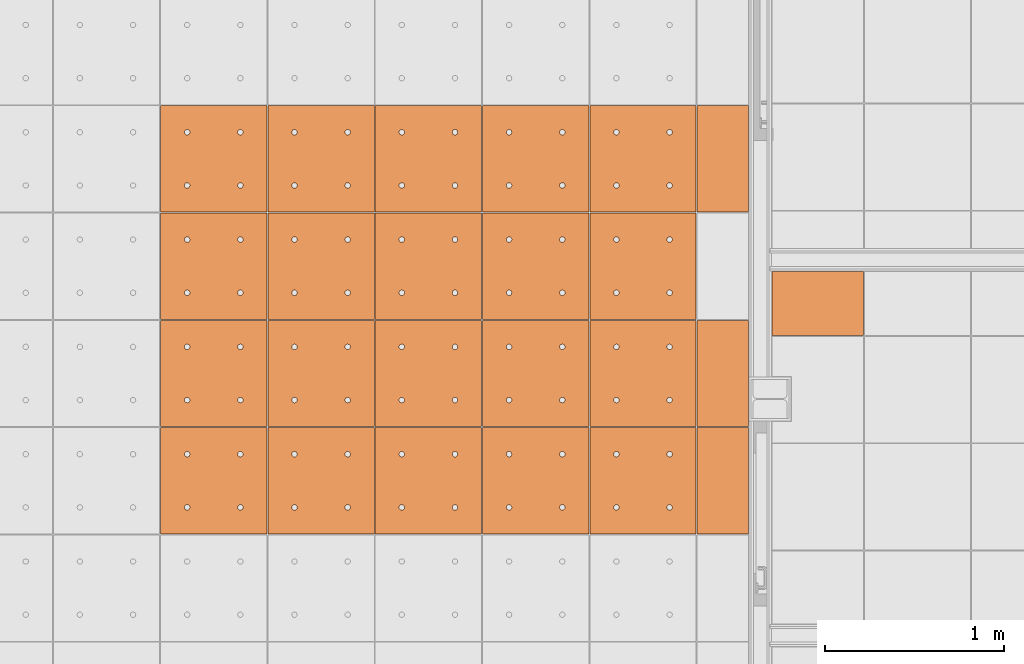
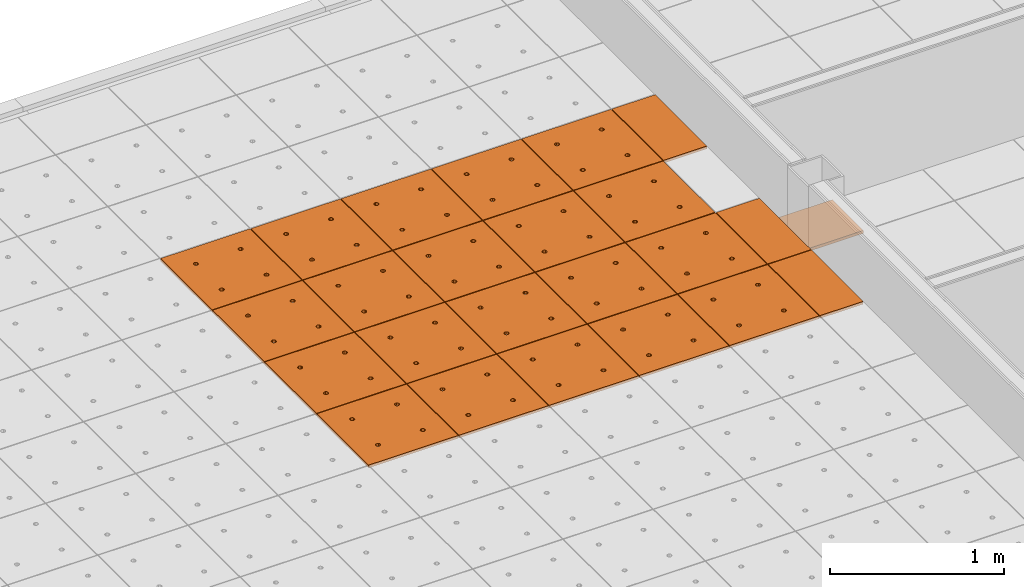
# One storey, part 297 of 338: 24 proxies, 2 elements without a shape of their own.
"""IFC2X3 building model written with IfcOpenShell, lengths in millimetres."""

from ifc_helpers import new_model, entity, si_unit, converted_unit, derived_unit, money_unit, direction, frame, origin_with_axes, place, context, subcontext, project, spatial, faceted_brep, source, transform, mapped, material, type_object, type_shapes, element, aggregate, save


model = new_model("IFC2X3")

# Units and contexts
model_context = context("Model", 3, precision=0.01, world=origin_with_axes(), true_north=direction((0.0, 1.0)))
plan_context = context("Plan", 3, precision=0.01, world=origin_with_axes(), true_north=direction((0.0, 1.0)))
body_context = subcontext(model_context, "Body", "Model", "MODEL_VIEW")
ifc_project = project(units=[si_unit("LENGTHUNIT", "METRE", prefix="MILLI"), si_unit("AREAUNIT", "SQUARE_METRE"), si_unit("VOLUMEUNIT", "CUBIC_METRE"), converted_unit("PLANEANGLEUNIT", "DEGREE", entity("IfcPlaneAngleMeasure", 0.0174532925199), si_unit("PLANEANGLEUNIT", "RADIAN"), dimensions=[0, 0, 0, 0, 0, 0, 0]), money_unit("EUR"), converted_unit("TIMEUNIT", "Year", entity("IfcTimeMeasure", 31556926.0), si_unit("TIMEUNIT", "SECOND"), dimensions=[0, 0, 1, 0, 0, 0, 0]), si_unit("MASSUNIT", "GRAM", prefix="KILO"), si_unit("THERMODYNAMICTEMPERATUREUNIT", "DEGREE_CELSIUS"), si_unit("LUMINOUSINTENSITYUNIT", "LUMEN"), si_unit("ENERGYUNIT", "JOULE", prefix="MEGA"), derived_unit("THERMALCONDUCTANCEUNIT", [(si_unit("POWERUNIT", "WATT"), 1), (si_unit("LENGTHUNIT", "METRE"), -1), (si_unit("THERMODYNAMICTEMPERATUREUNIT", "KELVIN"), -1)]), derived_unit("SPECIFICHEATCAPACITYUNIT", [(si_unit("ENERGYUNIT", "JOULE"), 1), (si_unit("MASSUNIT", "GRAM", prefix="KILO"), -1), (si_unit("THERMODYNAMICTEMPERATUREUNIT", "KELVIN"), -1)]), derived_unit("MASSDENSITYUNIT", [(si_unit("MASSUNIT", "GRAM", prefix="KILO"), 1), (si_unit("VOLUMEUNIT", "CUBIC_METRE"), -1)])], contexts=[model_context, plan_context])

# Site, building, storey
site_placement = place(None, origin_with_axes())
site = spatial("IfcSite", under=ifc_project, at=site_placement, Name="Fortuinstraat Woensdrecht", CompositionType="ELEMENT")
building_placement = place(site_placement, origin_with_axes())
building = spatial("IfcBuilding", under=site, at=building_placement, Name="IKC Fortuna", CompositionType="ELEMENT")
storey_placement = place(building_placement, origin_with_axes())
storey = spatial("IfcBuildingStorey", under=building, at=storey_placement, Name="00 begane grond", CompositionType="ELEMENT", Elevation=0.0)

# Covering, proxies
covering_type = type_object("IfcCoveringType", Name="Curtain Wall Type", PredefinedType="CEILING")
covering_1_placement = place(storey_placement, frame((15059.4416165, 34009.703821, 3210.0), z_axis=(0.0, 0.0, 1.0), x_axis=(1.0, 0.0, 0.0)))
covering_1 = element("IfcCovering", 1, at=covering_1_placement, inside=storey, type_object=covering_type, Name="45_Plafondafwerking_P01", PredefinedType="CEILING")
ifc_material = material(Name="Gipsplaat")
building_element_proxy_type_1 = type_object("IfcBuildingElementProxyType", Name="Distinct Panel 600 x 600 x 20", PredefinedType="NOTDEFINED")
shared_shape_1 = source(origin_with_axes(), body_context, "Body", "Brep", [
    faceted_brep([(2.49999999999, 2.49999999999, -10.0), (300.0, 2.49999999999, -10.0), (300.0, 2.49999999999, 10.0), (2.49999999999, 2.49999999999, 10.0), (2.49999999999, 300.0, -10.0), (2.49999999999, 597.5, -10.0), (300.0, 597.5, -10.0), (597.5, 597.5, -10.0), (597.5, 300.0, -10.0), (597.5, 2.49999999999, -10.0), (166.25, 450.06232995, -10.0), (165.79423259, 452.64711538, -10.0), (164.896546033, 455.11348892, -10.0), (163.58421608, 457.38651108, -10.0), (161.897117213, 459.39711721, -10.0), (159.886511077, 461.08421608, -10.0), (157.613488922, 462.39654603, -10.0), (155.147115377, 463.29423259, -10.0), (152.562329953, 463.75, -10.0), (149.937670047, 463.75, -10.0), (147.352884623, 463.29423259, -10.0), (144.886511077, 462.39654603, -10.0), (142.613488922, 461.08421608, -10.0), (140.602882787, 459.39711721, -10.0), (138.91578392, 457.38651108, -10.0), (137.603453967, 455.11348892, -10.0), (136.705767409, 452.64711538, -10.0), (136.25, 450.06232995, -10.0), (136.25, 448.75, -10.0), (136.25, 447.43767005, -10.0), (136.705767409, 444.85288462, -10.0), (137.603453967, 442.38651108, -10.0), (138.91578392, 440.11348892, -10.0), (140.602882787, 438.10288279, -10.0), (142.613488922, 436.41578392, -10.0), (144.886511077, 435.10345397, -10.0), (147.352884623, 434.20576741, -10.0), (149.937670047, 433.75, -10.0), (152.562329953, 433.75, -10.0), (155.147115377, 434.20576741, -10.0), (157.613488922, 435.10345397, -10.0), (159.886511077, 436.41578392, -10.0), (161.897117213, 438.10288279, -10.0), (163.58421608, 440.11348892, -10.0), (164.896546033, 442.38651108, -10.0), (165.79423259, 444.85288462, -10.0), (166.25, 447.43767005, -10.0), (463.75, 450.06232995, -10.0), (463.29423259, 452.64711538, -10.0), (462.396546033, 455.11348892, -10.0), (461.08421608, 457.38651108, -10.0), (459.397117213, 459.39711721, -10.0), (457.386511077, 461.08421608, -10.0), (455.113488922, 462.39654603, -10.0), (452.647115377, 463.29423259, -10.0), (450.062329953, 463.75, -10.0), (447.437670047, 463.75, -10.0), (444.852884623, 463.29423259, -10.0), (442.386511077, 462.39654603, -10.0), (440.113488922, 461.08421608, -10.0), (438.102882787, 459.39711721, -10.0), (436.41578392, 457.38651108, -10.0), (435.103453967, 455.11348892, -10.0), (434.205767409, 452.64711538, -10.0), (433.75, 450.06232995, -10.0), (433.75, 448.75, -10.0), (433.75, 447.43767005, -10.0), (434.205767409, 444.85288462, -10.0), (435.103453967, 442.38651108, -10.0), (436.41578392, 440.11348892, -10.0), (438.102882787, 438.10288279, -10.0), (440.113488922, 436.41578392, -10.0), (442.386511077, 435.10345397, -10.0), (444.852884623, 434.20576741, -10.0), (447.437670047, 433.75, -10.0), (450.062329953, 433.75, -10.0), (452.647115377, 434.20576741, -10.0), (455.113488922, 435.10345397, -10.0), (457.386511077, 436.41578392, -10.0), (459.397117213, 438.10288279, -10.0), (461.08421608, 440.11348892, -10.0), (462.396546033, 442.38651108, -10.0), (463.29423259, 444.85288462, -10.0), (463.75, 447.43767005, -10.0), (463.75, 152.56232995, -10.0), (463.29423259, 155.14711538, -10.0), (462.396546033, 157.61348892, -10.0), (461.08421608, 159.88651108, -10.0), (459.397117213, 161.89711721, -10.0), (457.386511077, 163.58421608, -10.0), (455.113488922, 164.89654603, -10.0), (452.647115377, 165.79423259, -10.0), (450.062329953, 166.25, -10.0), (447.437670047, 166.25, -10.0), (444.852884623, 165.79423259, -10.0), (442.386511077, 164.89654603, -10.0), (440.113488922, 163.58421608, -10.0), (438.102882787, 161.89711721, -10.0), (436.41578392, 159.88651108, -10.0), (435.103453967, 157.61348892, -10.0), (434.205767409, 155.14711538, -10.0), (433.75, 152.56232995, -10.0), (433.75, 151.25, -10.0), (433.75, 149.93767005, -10.0), (434.205767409, 147.35288462, -10.0), (435.103453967, 144.88651108, -10.0), (436.41578392, 142.61348892, -10.0), (438.102882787, 140.60288279, -10.0), (440.113488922, 138.91578392, -10.0), (442.386511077, 137.60345397, -10.0), (444.852884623, 136.70576741, -10.0), (447.437670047, 136.25, -10.0), (450.062329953, 136.25, -10.0), (452.647115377, 136.70576741, -10.0), (455.113488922, 137.60345397, -10.0), (457.386511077, 138.91578392, -10.0), (459.397117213, 140.60288279, -10.0), (461.08421608, 142.61348892, -10.0), (462.396546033, 144.88651108, -10.0), (463.29423259, 147.35288462, -10.0), (463.75, 149.93767005, -10.0), (166.25, 152.56232995, -10.0), (165.79423259, 155.14711538, -10.0), (164.896546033, 157.61348892, -10.0), (163.58421608, 159.88651108, -10.0), (161.897117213, 161.89711721, -10.0), (159.886511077, 163.58421608, -10.0), (157.613488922, 164.89654603, -10.0), (155.147115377, 165.79423259, -10.0), (152.562329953, 166.25, -10.0), (149.937670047, 166.25, -10.0), (147.352884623, 165.79423259, -10.0), (144.886511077, 164.89654603, -10.0), (142.613488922, 163.58421608, -10.0), (140.602882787, 161.89711721, -10.0), (138.91578392, 159.88651108, -10.0), (137.603453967, 157.61348892, -10.0), (136.705767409, 155.14711538, -10.0), (136.25, 152.56232995, -10.0), (136.25, 151.25, -10.0), (136.25, 149.93767005, -10.0), (136.705767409, 147.35288462, -10.0), (137.603453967, 144.88651108, -10.0), (138.91578392, 142.61348892, -10.0), (140.602882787, 140.60288279, -10.0), (142.613488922, 138.91578392, -10.0), (144.886511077, 137.60345397, -10.0), (147.352884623, 136.70576741, -10.0), (149.937670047, 136.25, -10.0), (152.562329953, 136.25, -10.0), (155.147115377, 136.70576741, -10.0), (157.613488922, 137.60345397, -10.0), (159.886511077, 138.91578392, -10.0), (161.897117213, 140.60288279, -10.0), (163.58421608, 142.61348892, -10.0), (164.896546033, 144.88651108, -10.0), (165.79423259, 147.35288462, -10.0), (166.25, 149.93767005, -10.0), (597.5, 2.49999999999, 10.0), (597.5, 300.0, 10.0), (597.5, 597.5, 10.0), (300.0, 597.5, 10.0), (2.49999999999, 597.5, 10.0), (2.49999999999, 300.0, 10.0), (166.25, 450.06232995, 10.0), (166.25, 447.43767005, 10.0), (165.79423259, 444.85288462, 10.0), (164.896546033, 442.38651108, 10.0), (163.58421608, 440.11348892, 10.0), (161.897117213, 438.10288279, 10.0), (159.886511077, 436.41578392, 10.0), (157.613488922, 435.10345397, 10.0), (155.147115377, 434.20576741, 10.0), (152.562329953, 433.75, 10.0), (149.937670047, 433.75, 10.0), (147.352884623, 434.20576741, 10.0), (144.886511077, 435.10345397, 10.0), (142.613488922, 436.41578392, 10.0), (140.602882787, 438.10288279, 10.0), (138.91578392, 440.11348892, 10.0), (137.603453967, 442.38651108, 10.0), (136.705767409, 444.85288462, 10.0), (136.25, 447.43767005, 10.0), (136.25, 448.75, 10.0), (136.25, 450.06232995, 10.0), (136.705767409, 452.64711538, 10.0), (137.603453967, 455.11348892, 10.0), (138.91578392, 457.38651108, 10.0), (140.602882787, 459.39711721, 10.0), (142.613488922, 461.08421608, 10.0), (144.886511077, 462.39654603, 10.0), (147.352884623, 463.29423259, 10.0), (149.937670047, 463.75, 10.0), (152.562329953, 463.75, 10.0), (155.147115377, 463.29423259, 10.0), (157.613488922, 462.39654603, 10.0), (159.886511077, 461.08421608, 10.0), (161.897117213, 459.39711721, 10.0), (163.58421608, 457.38651108, 10.0), (164.896546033, 455.11348892, 10.0), (165.79423259, 452.64711538, 10.0), (463.75, 450.06232995, 10.0), (463.75, 447.43767005, 10.0), (463.29423259, 444.85288462, 10.0), (462.396546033, 442.38651108, 10.0), (461.08421608, 440.11348892, 10.0), (459.397117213, 438.10288279, 10.0), (457.386511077, 436.41578392, 10.0), (455.113488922, 435.10345397, 10.0), (452.647115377, 434.20576741, 10.0), (450.062329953, 433.75, 10.0), (447.437670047, 433.75, 10.0), (444.852884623, 434.20576741, 10.0), (442.386511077, 435.10345397, 10.0), (440.113488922, 436.41578392, 10.0), (438.102882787, 438.10288279, 10.0), (436.41578392, 440.11348892, 10.0), (435.103453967, 442.38651108, 10.0), (434.205767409, 444.85288462, 10.0), (433.75, 447.43767005, 10.0), (433.75, 448.75, 10.0), (433.75, 450.06232995, 10.0), (434.205767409, 452.64711538, 10.0), (435.103453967, 455.11348892, 10.0), (436.41578392, 457.38651108, 10.0), (438.102882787, 459.39711721, 10.0), (440.113488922, 461.08421608, 10.0), (442.386511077, 462.39654603, 10.0), (444.852884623, 463.29423259, 10.0), (447.437670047, 463.75, 10.0), (450.062329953, 463.75, 10.0), (452.647115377, 463.29423259, 10.0), (455.113488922, 462.39654603, 10.0), (457.386511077, 461.08421608, 10.0), (459.397117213, 459.39711721, 10.0), (461.08421608, 457.38651108, 10.0), (462.396546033, 455.11348892, 10.0), (463.29423259, 452.64711538, 10.0), (463.75, 152.56232995, 10.0), (463.75, 149.93767005, 10.0), (463.29423259, 147.35288462, 10.0), (462.396546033, 144.88651108, 10.0), (461.08421608, 142.61348892, 10.0), (459.397117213, 140.60288279, 10.0), (457.386511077, 138.91578392, 10.0), (455.113488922, 137.60345397, 10.0), (452.647115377, 136.70576741, 10.0), (450.062329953, 136.25, 10.0), (447.437670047, 136.25, 10.0), (444.852884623, 136.70576741, 10.0), (442.386511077, 137.60345397, 10.0), (440.113488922, 138.91578392, 10.0), (438.102882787, 140.60288279, 10.0), (436.41578392, 142.61348892, 10.0), (435.103453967, 144.88651108, 10.0), (434.205767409, 147.35288462, 10.0), (433.75, 149.93767005, 10.0), (433.75, 151.25, 10.0), (433.75, 152.56232995, 10.0), (434.205767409, 155.14711538, 10.0), (435.103453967, 157.61348892, 10.0), (436.41578392, 159.88651108, 10.0), (438.102882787, 161.89711721, 10.0), (440.113488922, 163.58421608, 10.0), (442.386511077, 164.89654603, 10.0), (444.852884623, 165.79423259, 10.0), (447.437670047, 166.25, 10.0), (450.062329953, 166.25, 10.0), (452.647115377, 165.79423259, 10.0), (455.113488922, 164.89654603, 10.0), (457.386511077, 163.58421608, 10.0), (459.397117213, 161.89711721, 10.0), (461.08421608, 159.88651108, 10.0), (462.396546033, 157.61348892, 10.0), (463.29423259, 155.14711538, 10.0), (166.25, 152.56232995, 10.0), (166.25, 149.93767005, 10.0), (165.79423259, 147.35288462, 10.0), (164.896546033, 144.88651108, 10.0), (163.58421608, 142.61348892, 10.0), (161.897117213, 140.60288279, 10.0), (159.886511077, 138.91578392, 10.0), (157.613488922, 137.60345397, 10.0), (155.147115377, 136.70576741, 10.0), (152.562329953, 136.25, 10.0), (149.937670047, 136.25, 10.0), (147.352884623, 136.70576741, 10.0), (144.886511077, 137.60345397, 10.0), (142.613488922, 138.91578392, 10.0), (140.602882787, 140.60288279, 10.0), (138.91578392, 142.61348892, 10.0), (137.603453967, 144.88651108, 10.0), (136.705767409, 147.35288462, 10.0), (136.25, 149.93767005, 10.0), (136.25, 151.25, 10.0), (136.25, 152.56232995, 10.0), (136.705767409, 155.14711538, 10.0), (137.603453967, 157.61348892, 10.0), (138.91578392, 159.88651108, 10.0), (140.602882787, 161.89711721, 10.0), (142.613488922, 163.58421608, 10.0), (144.886511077, 164.89654603, 10.0), (147.352884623, 165.79423259, 10.0), (149.937670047, 166.25, 10.0), (152.562329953, 166.25, 10.0), (155.147115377, 165.79423259, 10.0), (157.613488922, 164.89654603, 10.0), (159.886511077, 163.58421608, 10.0), (161.897117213, 161.89711721, 10.0), (163.58421608, 159.88651108, 10.0), (164.896546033, 157.61348892, 10.0), (165.79423259, 155.14711538, 10.0)], [[[0, 1, 2, 3]], [[0, 4, 5, 6, 7, 8, 9, 1], [10, 11, 12, 13, 14, 15, 16, 17, 18, 19, 20, 21, 22, 23, 24, 25, 26, 27, 28, 29, 30, 31, 32, 33, 34, 35, 36, 37, 38, 39, 40, 41, 42, 43, 44, 45, 46], [47, 48, 49, 50, 51, 52, 53, 54, 55, 56, 57, 58, 59, 60, 61, 62, 63, 64, 65, 66, 67, 68, 69, 70, 71, 72, 73, 74, 75, 76, 77, 78, 79, 80, 81, 82, 83], [84, 85, 86, 87, 88, 89, 90, 91, 92, 93, 94, 95, 96, 97, 98, 99, 100, 101, 102, 103, 104, 105, 106, 107, 108, 109, 110, 111, 112, 113, 114, 115, 116, 117, 118, 119, 120], [121, 122, 123, 124, 125, 126, 127, 128, 129, 130, 131, 132, 133, 134, 135, 136, 137, 138, 139, 140, 141, 142, 143, 144, 145, 146, 147, 148, 149, 150, 151, 152, 153, 154, 155, 156, 157]], [[1, 9, 158, 2]], [[3, 2, 158, 159, 160, 161, 162, 163], [164, 165, 166, 167, 168, 169, 170, 171, 172, 173, 174, 175, 176, 177, 178, 179, 180, 181, 182, 183, 184, 185, 186, 187, 188, 189, 190, 191, 192, 193, 194, 195, 196, 197, 198, 199, 200], [201, 202, 203, 204, 205, 206, 207, 208, 209, 210, 211, 212, 213, 214, 215, 216, 217, 218, 219, 220, 221, 222, 223, 224, 225, 226, 227, 228, 229, 230, 231, 232, 233, 234, 235, 236, 237], [238, 239, 240, 241, 242, 243, 244, 245, 246, 247, 248, 249, 250, 251, 252, 253, 254, 255, 256, 257, 258, 259, 260, 261, 262, 263, 264, 265, 266, 267, 268, 269, 270, 271, 272, 273, 274], [275, 276, 277, 278, 279, 280, 281, 282, 283, 284, 285, 286, 287, 288, 289, 290, 291, 292, 293, 294, 295, 296, 297, 298, 299, 300, 301, 302, 303, 304, 305, 306, 307, 308, 309, 310, 311]], [[4, 0, 3, 163]], [[5, 4, 163, 162]], [[6, 5, 162, 161]], [[7, 6, 161, 160]], [[8, 7, 160, 159]], [[9, 8, 159, 158]], [[11, 10, 164, 200]], [[12, 11, 200, 199]], [[13, 12, 199, 198]], [[14, 13, 198, 197]], [[15, 14, 197, 196]], [[16, 15, 196, 195]], [[17, 16, 195, 194]], [[18, 17, 194, 193]], [[19, 18, 193, 192]], [[20, 19, 192, 191]], [[21, 20, 191, 190]], [[22, 21, 190, 189]], [[23, 22, 189, 188]], [[24, 23, 188, 187]], [[25, 24, 187, 186]], [[26, 25, 186, 185]], [[27, 26, 185, 184]], [[28, 27, 184, 183]], [[29, 28, 183, 182]], [[30, 29, 182, 181]], [[31, 30, 181, 180]], [[32, 31, 180, 179]], [[33, 32, 179, 178]], [[34, 33, 178, 177]], [[35, 34, 177, 176]], [[36, 35, 176, 175]], [[37, 36, 175, 174]], [[38, 37, 174, 173]], [[39, 38, 173, 172]], [[40, 39, 172, 171]], [[41, 40, 171, 170]], [[42, 41, 170, 169]], [[43, 42, 169, 168]], [[44, 43, 168, 167]], [[45, 44, 167, 166]], [[46, 45, 166, 165]], [[10, 46, 165, 164]], [[48, 47, 201, 237]], [[49, 48, 237, 236]], [[50, 49, 236, 235]], [[51, 50, 235, 234]], [[52, 51, 234, 233]], [[53, 52, 233, 232]], [[54, 53, 232, 231]], [[55, 54, 231, 230]], [[56, 55, 230, 229]], [[57, 56, 229, 228]], [[58, 57, 228, 227]], [[59, 58, 227, 226]], [[60, 59, 226, 225]], [[61, 60, 225, 224]], [[62, 61, 224, 223]], [[63, 62, 223, 222]], [[64, 63, 222, 221]], [[65, 64, 221, 220]], [[66, 65, 220, 219]], [[67, 66, 219, 218]], [[68, 67, 218, 217]], [[69, 68, 217, 216]], [[70, 69, 216, 215]], [[71, 70, 215, 214]], [[72, 71, 214, 213]], [[73, 72, 213, 212]], [[74, 73, 212, 211]], [[75, 74, 211, 210]], [[76, 75, 210, 209]], [[77, 76, 209, 208]], [[78, 77, 208, 207]], [[79, 78, 207, 206]], [[80, 79, 206, 205]], [[81, 80, 205, 204]], [[82, 81, 204, 203]], [[83, 82, 203, 202]], [[47, 83, 202, 201]], [[85, 84, 238, 274]], [[86, 85, 274, 273]], [[87, 86, 273, 272]], [[88, 87, 272, 271]], [[89, 88, 271, 270]], [[90, 89, 270, 269]], [[91, 90, 269, 268]], [[92, 91, 268, 267]], [[93, 92, 267, 266]], [[94, 93, 266, 265]], [[95, 94, 265, 264]], [[96, 95, 264, 263]], [[97, 96, 263, 262]], [[98, 97, 262, 261]], [[99, 98, 261, 260]], [[100, 99, 260, 259]], [[101, 100, 259, 258]], [[102, 101, 258, 257]], [[103, 102, 257, 256]], [[104, 103, 256, 255]], [[105, 104, 255, 254]], [[106, 105, 254, 253]], [[107, 106, 253, 252]], [[108, 107, 252, 251]], [[109, 108, 251, 250]], [[110, 109, 250, 249]], [[111, 110, 249, 248]], [[112, 111, 248, 247]], [[113, 112, 247, 246]], [[114, 113, 246, 245]], [[115, 114, 245, 244]], [[116, 115, 244, 243]], [[117, 116, 243, 242]], [[118, 117, 242, 241]], [[119, 118, 241, 240]], [[120, 119, 240, 239]], [[84, 120, 239, 238]], [[122, 121, 275, 311]], [[123, 122, 311, 310]], [[124, 123, 310, 309]], [[125, 124, 309, 308]], [[126, 125, 308, 307]], [[127, 126, 307, 306]], [[128, 127, 306, 305]], [[129, 128, 305, 304]], [[130, 129, 304, 303]], [[131, 130, 303, 302]], [[132, 131, 302, 301]], [[133, 132, 301, 300]], [[134, 133, 300, 299]], [[135, 134, 299, 298]], [[136, 135, 298, 297]], [[137, 136, 297, 296]], [[138, 137, 296, 295]], [[139, 138, 295, 294]], [[140, 139, 294, 293]], [[141, 140, 293, 292]], [[142, 141, 292, 291]], [[143, 142, 291, 290]], [[144, 143, 290, 289]], [[145, 144, 289, 288]], [[146, 145, 288, 287]], [[147, 146, 287, 286]], [[148, 147, 286, 285]], [[149, 148, 285, 284]], [[150, 149, 284, 283]], [[151, 150, 283, 282]], [[152, 151, 282, 281]], [[153, 152, 281, 280]], [[154, 153, 280, 279]], [[155, 154, 279, 278]], [[156, 155, 278, 277]], [[157, 156, 277, 276]], [[121, 157, 276, 275]]]),
])
type_shapes(building_element_proxy_type_1, [shared_shape_1])
proxy_1_placement = place(covering_1_placement, frame((4800.0, -600.0, 0.0), z_axis=(0.0, 0.0, 1.0), x_axis=(1.0, 0.0, 0.0)))
proxy_1 = element("IfcBuildingElementProxy", 2, at=proxy_1_placement, type_object=building_element_proxy_type_1, material=ifc_material, Name="__Panel-D", context=body_context, shape_type="MappedRepresentation", body=[
    mapped(shared_shape_1, transform((300.0, 300.0, 0.0), x_axis=(-1.0, 0.0, 0.0), y_axis=(0.0, -1.0, 0.0), z_axis=(0.0, 0.0, 1.0))),
])
proxy_2_placement = place(covering_1_placement, frame((4800.0, -1200.0, 0.0), z_axis=(0.0, 0.0, 1.0), x_axis=(1.0, 0.0, 0.0)))
proxy_2 = element("IfcBuildingElementProxy", 3, at=proxy_2_placement, type_object=building_element_proxy_type_1, material=ifc_material, Name="__Panel-D", context=body_context, shape_type="MappedRepresentation", body=[
    mapped(shared_shape_1, transform((300.0, 300.0, 0.0), x_axis=(-1.0, 0.0, 0.0), y_axis=(0.0, -1.0, 0.0), z_axis=(0.0, 0.0, 1.0))),
])
proxy_3_placement = place(covering_1_placement, frame((4800.0, -1800.0, 0.0), z_axis=(0.0, 0.0, 1.0), x_axis=(1.0, 0.0, 0.0)))
proxy_3 = element("IfcBuildingElementProxy", 4, at=proxy_3_placement, type_object=building_element_proxy_type_1, material=ifc_material, Name="__Panel-D", context=body_context, shape_type="MappedRepresentation", body=[
    mapped(shared_shape_1, transform((300.0, 300.0, 0.0), x_axis=(-1.0, 0.0, 0.0), y_axis=(0.0, -1.0, 0.0), z_axis=(0.0, 0.0, 1.0))),
])
proxy_4_placement = place(covering_1_placement, frame((4800.0, -2400.0, 0.0), z_axis=(0.0, 0.0, 1.0), x_axis=(1.0, 0.0, 0.0)))
proxy_4 = element("IfcBuildingElementProxy", 5, at=proxy_4_placement, type_object=building_element_proxy_type_1, material=ifc_material, Name="__Panel-D", context=body_context, shape_type="MappedRepresentation", body=[
    mapped(shared_shape_1, transform((300.0, 300.0, 0.0), x_axis=(-1.0, 0.0, 0.0), y_axis=(0.0, -1.0, 0.0), z_axis=(0.0, 0.0, 1.0))),
])
proxy_5_placement = place(covering_1_placement, frame((4200.0, -600.0, 0.0), z_axis=(0.0, 0.0, 1.0), x_axis=(1.0, 0.0, 0.0)))
proxy_5 = element("IfcBuildingElementProxy", 6, at=proxy_5_placement, type_object=building_element_proxy_type_1, material=ifc_material, Name="__Panel-D", context=body_context, shape_type="MappedRepresentation", body=[
    mapped(shared_shape_1, transform((300.0, 300.0, 0.0), x_axis=(-1.0, 0.0, 0.0), y_axis=(0.0, -1.0, 0.0), z_axis=(0.0, 0.0, 1.0))),
])
proxy_6_placement = place(covering_1_placement, frame((4200.0, -1200.0, 0.0), z_axis=(0.0, 0.0, 1.0), x_axis=(1.0, 0.0, 0.0)))
proxy_6 = element("IfcBuildingElementProxy", 7, at=proxy_6_placement, type_object=building_element_proxy_type_1, material=ifc_material, Name="__Panel-D", context=body_context, shape_type="MappedRepresentation", body=[
    mapped(shared_shape_1, transform((300.0, 300.0, 0.0), x_axis=(-1.0, 0.0, 0.0), y_axis=(0.0, -1.0, 0.0), z_axis=(0.0, 0.0, 1.0))),
])
proxy_7_placement = place(covering_1_placement, frame((4200.0, -1800.0, 0.0), z_axis=(0.0, 0.0, 1.0), x_axis=(1.0, 0.0, 0.0)))
proxy_7 = element("IfcBuildingElementProxy", 8, at=proxy_7_placement, type_object=building_element_proxy_type_1, material=ifc_material, Name="__Panel-D", context=body_context, shape_type="MappedRepresentation", body=[
    mapped(shared_shape_1, transform((300.0, 300.0, 0.0), x_axis=(-1.0, 0.0, 0.0), y_axis=(0.0, -1.0, 0.0), z_axis=(0.0, 0.0, 1.0))),
])
proxy_8_placement = place(covering_1_placement, frame((4200.0, -2400.0, 0.0), z_axis=(0.0, 0.0, 1.0), x_axis=(1.0, 0.0, 0.0)))
proxy_8 = element("IfcBuildingElementProxy", 9, at=proxy_8_placement, type_object=building_element_proxy_type_1, material=ifc_material, Name="__Panel-D", context=body_context, shape_type="MappedRepresentation", body=[
    mapped(shared_shape_1, transform((300.0, 300.0, 0.0), x_axis=(-1.0, 0.0, 0.0), y_axis=(0.0, -1.0, 0.0), z_axis=(0.0, 0.0, 1.0))),
])
proxy_9_placement = place(covering_1_placement, frame((3600.0, -600.0, 0.0), z_axis=(0.0, 0.0, 1.0), x_axis=(1.0, 0.0, 0.0)))
proxy_9 = element("IfcBuildingElementProxy", 10, at=proxy_9_placement, type_object=building_element_proxy_type_1, material=ifc_material, Name="__Panel-D", context=body_context, shape_type="MappedRepresentation", body=[
    mapped(shared_shape_1, transform((300.0, 300.0, 0.0), x_axis=(-1.0, 0.0, 0.0), y_axis=(0.0, -1.0, 0.0), z_axis=(0.0, 0.0, 1.0))),
])
proxy_10_placement = place(covering_1_placement, frame((3600.0, -1200.0, 0.0), z_axis=(0.0, 0.0, 1.0), x_axis=(1.0, 0.0, 0.0)))
proxy_10 = element("IfcBuildingElementProxy", 11, at=proxy_10_placement, type_object=building_element_proxy_type_1, material=ifc_material, Name="__Panel-D", context=body_context, shape_type="MappedRepresentation", body=[
    mapped(shared_shape_1, transform((300.0, 300.0, 0.0), x_axis=(-1.0, 0.0, 0.0), y_axis=(0.0, -1.0, 0.0), z_axis=(0.0, 0.0, 1.0))),
])
proxy_11_placement = place(covering_1_placement, frame((3600.0, -1800.0, 0.0), z_axis=(0.0, 0.0, 1.0), x_axis=(1.0, 0.0, 0.0)))
proxy_11 = element("IfcBuildingElementProxy", 12, at=proxy_11_placement, type_object=building_element_proxy_type_1, material=ifc_material, Name="__Panel-D", context=body_context, shape_type="MappedRepresentation", body=[
    mapped(shared_shape_1, transform((300.0, 300.0, 0.0), x_axis=(-1.0, 0.0, 0.0), y_axis=(0.0, -1.0, 0.0), z_axis=(0.0, 0.0, 1.0))),
])
proxy_12_placement = place(covering_1_placement, frame((3600.0, -2400.0, 0.0), z_axis=(0.0, 0.0, 1.0), x_axis=(1.0, 0.0, 0.0)))
proxy_12 = element("IfcBuildingElementProxy", 13, at=proxy_12_placement, type_object=building_element_proxy_type_1, material=ifc_material, Name="__Panel-D", context=body_context, shape_type="MappedRepresentation", body=[
    mapped(shared_shape_1, transform((300.0, 300.0, 0.0), x_axis=(-1.0, 0.0, 0.0), y_axis=(0.0, -1.0, 0.0), z_axis=(0.0, 0.0, 1.0))),
])
proxy_13_placement = place(covering_1_placement, frame((3000.0, -600.0, 0.0), z_axis=(0.0, 0.0, 1.0), x_axis=(1.0, 0.0, 0.0)))
proxy_13 = element("IfcBuildingElementProxy", 14, at=proxy_13_placement, type_object=building_element_proxy_type_1, material=ifc_material, Name="__Panel-D", context=body_context, shape_type="MappedRepresentation", body=[
    mapped(shared_shape_1, transform((300.0, 300.0, 0.0), x_axis=(-1.0, 0.0, 0.0), y_axis=(0.0, -1.0, 0.0), z_axis=(0.0, 0.0, 1.0))),
])
proxy_14_placement = place(covering_1_placement, frame((3000.0, -1200.0, 0.0), z_axis=(0.0, 0.0, 1.0), x_axis=(1.0, 0.0, 0.0)))
proxy_14 = element("IfcBuildingElementProxy", 15, at=proxy_14_placement, type_object=building_element_proxy_type_1, material=ifc_material, Name="__Panel-D", context=body_context, shape_type="MappedRepresentation", body=[
    mapped(shared_shape_1, transform((300.0, 300.0, 0.0), x_axis=(-1.0, 0.0, 0.0), y_axis=(0.0, -1.0, 0.0), z_axis=(0.0, 0.0, 1.0))),
])
proxy_15_placement = place(covering_1_placement, frame((3000.0, -1800.0, 0.0), z_axis=(0.0, 0.0, 1.0), x_axis=(1.0, 0.0, 0.0)))
proxy_15 = element("IfcBuildingElementProxy", 16, at=proxy_15_placement, type_object=building_element_proxy_type_1, material=ifc_material, Name="__Panel-D", context=body_context, shape_type="MappedRepresentation", body=[
    mapped(shared_shape_1, transform((300.0, 300.0, 0.0), x_axis=(-1.0, 0.0, 0.0), y_axis=(0.0, -1.0, 0.0), z_axis=(0.0, 0.0, 1.0))),
])
proxy_16_placement = place(covering_1_placement, frame((3000.0, -2400.0, 0.0), z_axis=(0.0, 0.0, 1.0), x_axis=(1.0, 0.0, 0.0)))
proxy_16 = element("IfcBuildingElementProxy", 17, at=proxy_16_placement, type_object=building_element_proxy_type_1, material=ifc_material, Name="__Panel-D", context=body_context, shape_type="MappedRepresentation", body=[
    mapped(shared_shape_1, transform((300.0, 300.0, 0.0), x_axis=(-1.0, 0.0, 0.0), y_axis=(0.0, -1.0, 0.0), z_axis=(0.0, 0.0, 1.0))),
])
proxy_17_placement = place(covering_1_placement, frame((2400.0, -600.0, 0.0), z_axis=(0.0, 0.0, 1.0), x_axis=(1.0, 0.0, 0.0)))
proxy_17 = element("IfcBuildingElementProxy", 18, at=proxy_17_placement, type_object=building_element_proxy_type_1, material=ifc_material, Name="__Panel-D", context=body_context, shape_type="MappedRepresentation", body=[
    mapped(shared_shape_1, transform((300.0, 300.0, 0.0), x_axis=(-1.0, 0.0, 0.0), y_axis=(0.0, -1.0, 0.0), z_axis=(0.0, 0.0, 1.0))),
])
proxy_18_placement = place(covering_1_placement, frame((2400.0, -1200.0, 0.0), z_axis=(0.0, 0.0, 1.0), x_axis=(1.0, 0.0, 0.0)))
proxy_18 = element("IfcBuildingElementProxy", 19, at=proxy_18_placement, type_object=building_element_proxy_type_1, material=ifc_material, Name="__Panel-D", context=body_context, shape_type="MappedRepresentation", body=[
    mapped(shared_shape_1, transform((300.0, 300.0, 0.0), x_axis=(-1.0, 0.0, 0.0), y_axis=(0.0, -1.0, 0.0), z_axis=(0.0, 0.0, 1.0))),
])
proxy_19_placement = place(covering_1_placement, frame((2400.0, -1800.0, 0.0), z_axis=(0.0, 0.0, 1.0), x_axis=(1.0, 0.0, 0.0)))
proxy_19 = element("IfcBuildingElementProxy", 20, at=proxy_19_placement, type_object=building_element_proxy_type_1, material=ifc_material, Name="__Panel-D", context=body_context, shape_type="MappedRepresentation", body=[
    mapped(shared_shape_1, transform((300.0, 300.0, 0.0), x_axis=(-1.0, 0.0, 0.0), y_axis=(0.0, -1.0, 0.0), z_axis=(0.0, 0.0, 1.0))),
])
proxy_20_placement = place(covering_1_placement, frame((2400.0, -2400.0, 0.0), z_axis=(0.0, 0.0, 1.0), x_axis=(1.0, 0.0, 0.0)))
proxy_20 = element("IfcBuildingElementProxy", 21, at=proxy_20_placement, type_object=building_element_proxy_type_1, material=ifc_material, Name="__Panel-D", context=body_context, shape_type="MappedRepresentation", body=[
    mapped(shared_shape_1, transform((300.0, 300.0, 0.0), x_axis=(-1.0, 0.0, 0.0), y_axis=(0.0, -1.0, 0.0), z_axis=(0.0, 0.0, 1.0))),
])
building_element_proxy_type_2 = type_object("IfcBuildingElementProxyType", Name="Main Panel 292 x 600 x 20", PredefinedType="NOTDEFINED")
shared_shape_2 = source(origin_with_axes(), body_context, "Body", "Brep", [
    faceted_brep([(310.0065893, 2.5, -10.0), (597.5, 2.49999999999, -10.0), (597.5, 2.49999999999, 10.0), (310.0065893, 2.5, 10.0), (310.0065893, 597.5, -10.0), (597.5, 597.5, -10.0), (597.5, 597.5, 10.0), (310.0065893, 597.5, 10.0)], [[[0, 1, 2, 3]], [[0, 4, 5, 1]], [[1, 5, 6, 2]], [[3, 2, 6, 7]], [[4, 0, 3, 7]], [[5, 4, 7, 6]]]),
])
proxy_21_placement = place(covering_1_placement, frame((5246.24670484, -2400.0, 0.0), z_axis=(0.0, 0.0, 1.0), x_axis=(1.0, 0.0, 0.0)))
proxy_21 = element("IfcBuildingElementProxy", 22, at=proxy_21_placement, type_object=building_element_proxy_type_2, material=ifc_material, Name="__Panel-D", context=body_context, shape_type="MappedRepresentation", body=[
    mapped(shared_shape_2, transform((453.753295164, 300.0, 0.0), x_axis=(-1.0, 0.0, 0.0), y_axis=(0.0, -1.0, 0.0), z_axis=(0.0, 0.0, 1.0))),
])
proxy_22_placement = place(covering_1_placement, frame((5246.24667228, -1800.0, 0.0), z_axis=(0.0, 0.0, 1.0), x_axis=(1.0, 0.0, 0.0)))
proxy_22 = element("IfcBuildingElementProxy", 23, at=proxy_22_placement, type_object=building_element_proxy_type_2, material=ifc_material, Name="__Panel-D", context=body_context, shape_type="MappedRepresentation", body=[
    mapped(shared_shape_2, transform((453.75332772, 300.0, 0.0), x_axis=(-1.0, 0.0, 0.0), y_axis=(0.0, -1.0, 0.0), z_axis=(0.0, 0.0, 1.0))),
])
shared_shape_3 = source(origin_with_axes(), body_context, "Body", "Brep", [
    faceted_brep([(310.00672341, 2.5, -10.0), (597.5, 2.49999999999, -10.0), (597.5, 2.49999999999, 10.0), (310.00672341, 2.5, 10.0), (310.00672341, 597.5, -10.0), (597.5, 597.5, -10.0), (597.5, 597.5, 10.0), (310.00672341, 597.5, 10.0)], [[[0, 1, 2, 3]], [[0, 4, 5, 1]], [[1, 5, 6, 2]], [[3, 2, 6, 7]], [[4, 0, 3, 7]], [[5, 4, 7, 6]]]),
])
type_shapes(building_element_proxy_type_2, [shared_shape_2, shared_shape_3])
proxy_23_placement = place(covering_1_placement, frame((5246.24663972, -600.0, 0.0), z_axis=(0.0, 0.0, 1.0), x_axis=(1.0, 0.0, 0.0)))
proxy_23 = element("IfcBuildingElementProxy", 24, at=proxy_23_placement, type_object=building_element_proxy_type_2, material=ifc_material, Name="__Panel-D", context=body_context, shape_type="MappedRepresentation", body=[
    mapped(shared_shape_3, transform((453.753360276, 300.0, 0.0), x_axis=(-1.0, 0.0, 0.0), y_axis=(0.0, -1.0, 0.0), z_axis=(0.0, 0.0, 1.0))),
])
aggregate(covering_1, [proxy_21, proxy_23, proxy_22, proxy_1, proxy_2, proxy_3, proxy_4, proxy_5, proxy_6, proxy_7, proxy_8, proxy_9, proxy_10, proxy_11, proxy_12, proxy_13, proxy_14, proxy_15, proxy_16, proxy_17, proxy_18, proxy_19, proxy_20])

# Covering, proxy
covering_2_placement = place(storey_placement, frame((22594.4446507, 31013.6071773, 2810.0), z_axis=(0.0, 0.0, 1.0), x_axis=(1.0, 0.0, 0.0)))
covering_2 = element("IfcCovering", 25, at=covering_2_placement, inside=storey, type_object=covering_type, Name="45_Plafondafwerking_P02", PredefinedType="CEILING")
building_element_proxy_type_3 = type_object("IfcBuildingElementProxyType", Name="Distinct Panel 518 x 363 x 20", PredefinedType="NOTDEFINED")
shared_shape_4 = source(origin_with_axes(), body_context, "Body", "Brep", [
    faceted_brep([(2.49999977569, 239.999928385, -10.0), (515.009693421, 239.999959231, -10.0), (515.009693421, 239.999959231, 10.0), (2.49999977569, 239.999928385, 10.0), (2.4999997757, 597.500027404, -10.0), (515.009693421, 597.500027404, -10.0), (515.009693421, 597.500027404, 10.0), (2.4999997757, 597.500027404, 10.0)], [[[0, 1, 2, 3]], [[0, 4, 5, 1]], [[1, 5, 6, 2]], [[3, 2, 6, 7]], [[4, 0, 3, 7]], [[5, 4, 7, 6]]]),
])
type_shapes(building_element_proxy_type_3, [shared_shape_4])
proxy_24_placement = place(covering_2_placement, frame((-1758.7548466, 1587.45463303, 0.0), z_axis=(0.0, 0.0, 1.0), x_axis=(1.0, 0.0, 0.0)))
proxy_24 = element("IfcBuildingElementProxy", 26, at=proxy_24_placement, type_object=building_element_proxy_type_3, material=ifc_material, Name="__Panel-D", context=body_context, shape_type="MappedRepresentation", body=[
    mapped(shared_shape_4, transform((258.754846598, 418.74998697, 0.0), x_axis=(-1.0, 0.0, 0.0), y_axis=(0.0, -1.0, 0.0), z_axis=(0.0, 0.0, 1.0))),
])
aggregate(covering_2, [proxy_24])

save(model, "model.ifc")
